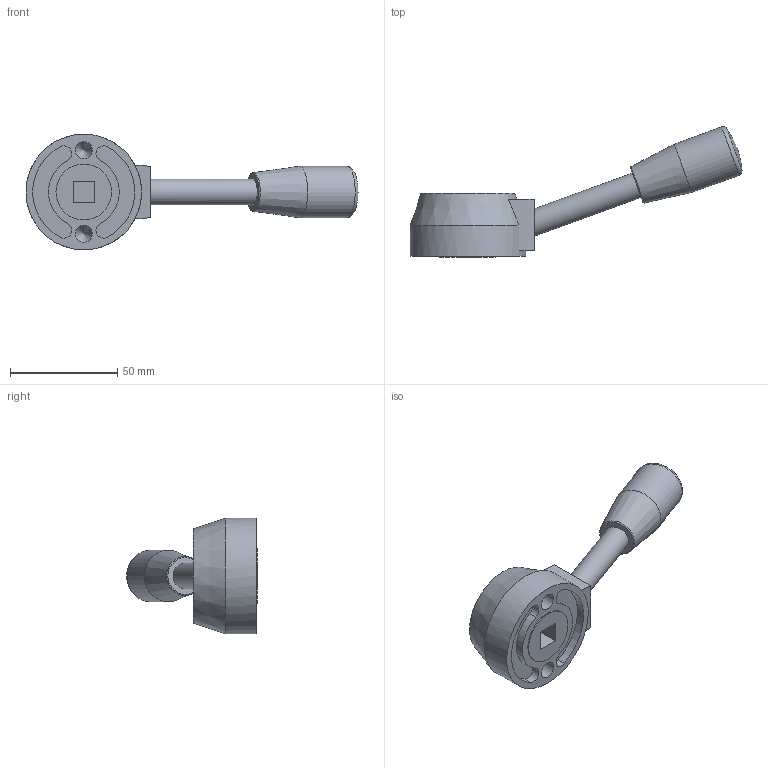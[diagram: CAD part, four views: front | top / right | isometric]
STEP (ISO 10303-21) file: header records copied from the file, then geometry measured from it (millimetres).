
FILE_DESCRIPTION( ( 'STEP AP203' ), '1' );
FILE_NAME( 'C:/Temp/Ganter_Step_05_03_2020/data/2_1/gn_512/gn_512_v/Control lever GN 512-54-V10.stp', '2020-03-05T11:51:44', ( 'License CC BY-ND 4.0' ), ( 'CADENAS' ), ' ', 'PARTsolutions', ' ' );
FILE_SCHEMA( ( 'CONFIG_CONTROL_DESIGN' ) );
Length unit declared in the file: millimetre
Products named in the file (1): _Control lever GN 512-54-V10
Bounding box: 155.09 x 61.04 x 54 mm (x, y, z)
Volume: 82997.8 mm3; surface area: 18240.3 mm2
Topology: 1 solids, 1 shells, 39 faces, 89 edges, 58 vertices
Faces by surface type: plane 17, cylinder 15, cone 4, torus 2, sphere 1
Full cylindrical faces by diameter (mm): 8 x2, 12 x1, 24 x1, 26 x1, 31 x1, 54 x1
Entity records: 1032 total; most frequent: DIRECTION 182, CARTESIAN_POINT 168, ORIENTED_EDGE 136, AXIS2_PLACEMENT_3D 76, EDGE_CURVE 68, EDGE_LOOP 59, VERTEX_POINT 54, FACE_OUTER_BOUND 48
